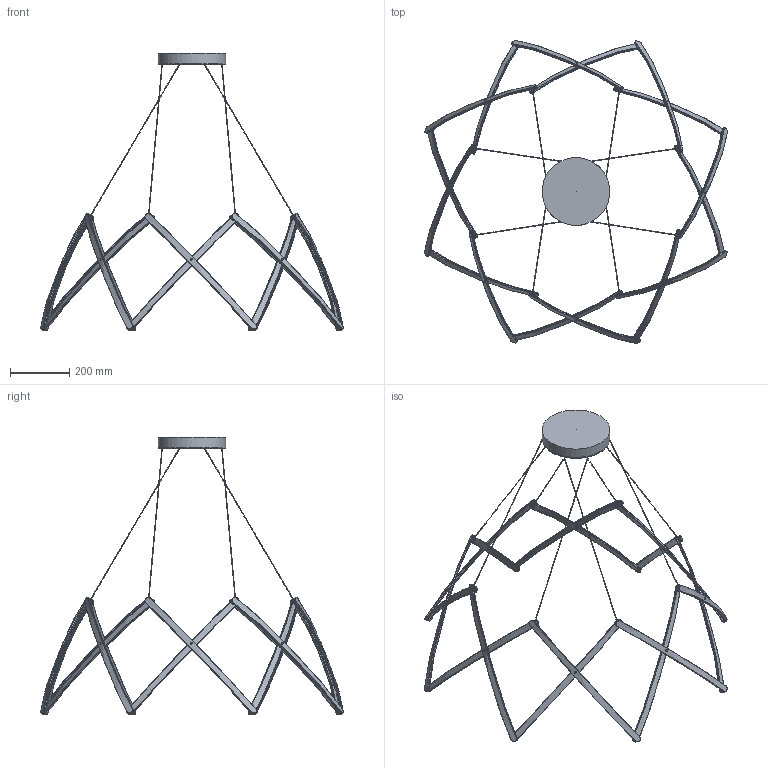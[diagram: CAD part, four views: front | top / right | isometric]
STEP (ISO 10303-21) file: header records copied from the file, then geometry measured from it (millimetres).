
FILE_DESCRIPTION(/* description */ (''),/* implementation_level */ '2;1');
FILE_NAME(/* name */ 'STELLA16 FLAT POS 3',/* time_stamp */ '2024-05-06T13:23:48-07:00',/* author */ (''),/* organization */ (''),/* preprocessor_version */ 'ST-DEVELOPER v18',/* originating_system */ '',/* authorisation */ '');
FILE_SCHEMA (('AUTOMOTIVE_DESIGN { 1 0 10303 214 3 1 1 }'));
Bounding box: 1021.73 x 1021.73 x 937.09 mm (x, y, z)
Surface area: 672916.5 mm2 (no closed solid volume)
Topology: 0 solids, 2007 shells, 2007 faces, 9649 edges, 9507 vertices
Faces by surface type: bspline 2007
Entity records: 155896 total; most frequent: CARTESIAN_POINT 108175, ORIENTED_EDGE 9709, EDGE_CURVE 9607, VERTEX_POINT 9507, B_SPLINE_CURVE_WITH_KNOTS 4631, EDGE_LOOP 2175, STYLED_ITEM 2007, FACE_OUTER_BOUND 2007
